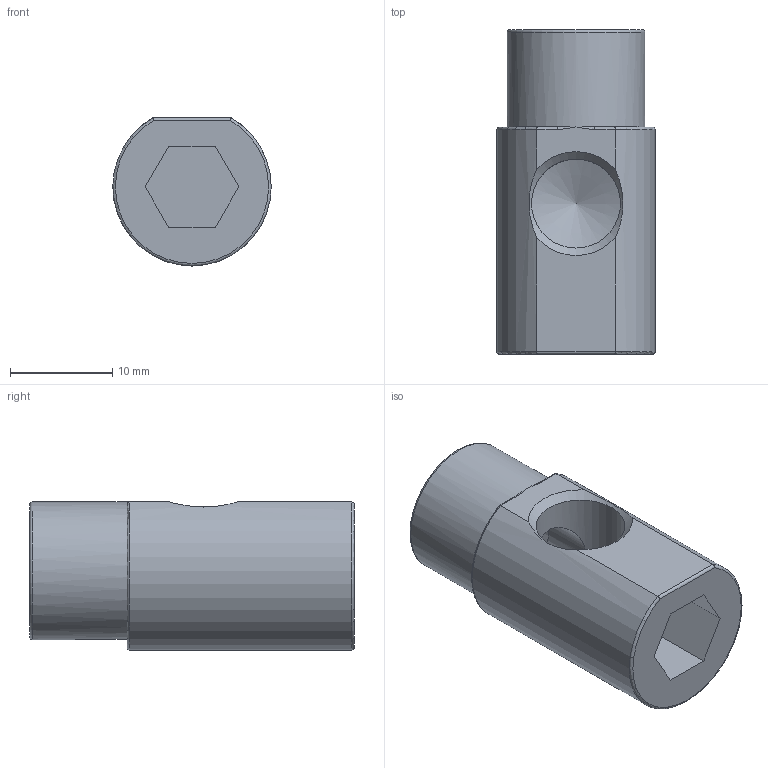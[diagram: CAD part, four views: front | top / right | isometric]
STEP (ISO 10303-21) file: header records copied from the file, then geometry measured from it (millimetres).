
FILE_DESCRIPTION(/* description */ (''),/* implementation_level */ '2;1');
FILE_NAME(/* name */ 'C:/Users/drich/Desktop/HKL18 v2.step',/* time_stamp */ '2019-12-27T17:58:07-06:00',/* author */ (''),/* organization */ (''),/* preprocessor_version */ 'ST-DEVELOPER v18',/* originating_system */ 'Autodesk Translation Framework v8.12.0.6',/* authorisation */ '');
FILE_SCHEMA (('AUTOMOTIVE_DESIGN { 1 0 10303 214 3 1 1 }'));
Length unit declared in the file: inch
Products named in the file (1): HKL18
Bounding box: 15.49 x 31.75 x 14.48 mm (x, y, z)
Volume: 3661.4 mm3; surface area: 2561.1 mm2
Topology: 1 solids, 1 shells, 29 faces, 73 edges, 44 vertices
Faces by surface type: plane 12, cylinder 8, cone 4, torus 3, bspline 2
Full cylindrical faces by diameter (mm): 6.731 x1, 8.707 x2, 13.462 x1
Entity records: 1036 total; most frequent: CARTESIAN_POINT 319, ORIENTED_EDGE 140, DIRECTION 138, EDGE_CURVE 70, AXIS2_PLACEMENT_3D 51, VERTEX_POINT 44, LINE 36, VECTOR 36
